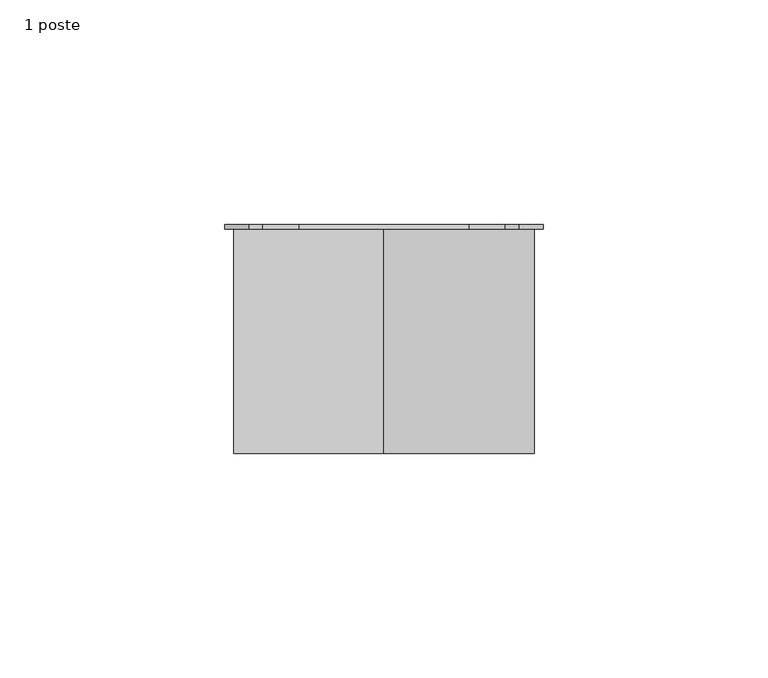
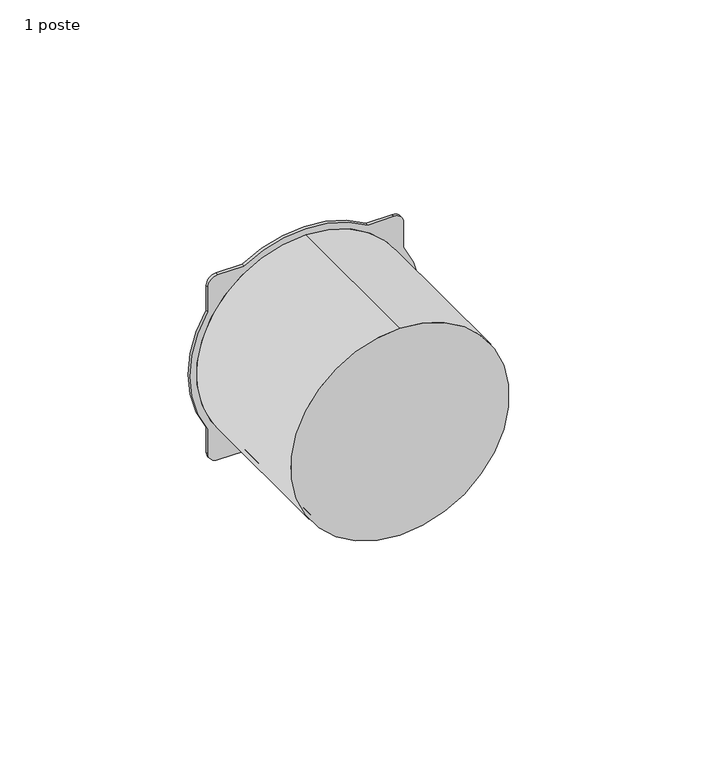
"""IFC4 building model written with IfcOpenShell, lengths in millimetres: proxy geometry, Legrand Boite encastrement batibox 1 poste1 : 1 poste."""

from ifc_helpers import new_model, si_unit, frame, origin, place, context, project, spatial, polyline, circle_curve, source, transform, mapped, element, save
from ifc_brep_helpers import plane_surface, cylinder_surface, revolved_surface, advanced_brep


def proxy_1_poste_16ea5c28(model_context):
    return source(origin(), model_context, "Body", "AdvancedBrep", [
        advanced_brep(
        [(143.9802529, 100.5, 280.0), (106.0197471, 100.5, 280.0), (98.0, 100.5, 280.0), (95.0, 100.5, 277.0), (95.0, 100.5, 268.9802529), (95.0, 100.5, 231.0197471), (95.0, 100.5, 223.0), (98.0, 100.5, 220.0), (106.0197471, 100.5, 220.0), (143.9802529, 100.5, 220.0), (152.0, 100.5, 220.0), (155.0, 100.5, 223.0), (155.0, 100.5, 231.0197471), (155.0, 100.5, 268.9802529), (155.0, 100.5, 277.0), (152.0, 100.5, 280.0), (125.0, 100.5, 283.5), (125.0, 100.5, 216.5), (143.9802529, 101.5, 280.0), (152.0, 101.5, 280.0), (155.0, 101.5, 277.0), (155.0, 101.5, 268.9802529), (155.0, 101.5, 231.0197471), (155.0, 101.5, 223.0), (152.0, 101.5, 220.0), (143.9802529, 101.5, 220.0), (106.0197471, 101.5, 220.0), (98.0, 101.5, 220.0), (95.0, 101.5, 223.0), (95.0, 101.5, 231.0197471), (95.0, 101.5, 268.9802529), (95.0, 101.5, 277.0), (98.0, 101.5, 280.0), (106.0197471, 101.5, 280.0), (125.0, 101.5, 217.5), (125.0, 101.5, 282.5), (125.0, 100.5, 282.5), (125.0, 100.5, 217.5), (125.0, 50.5, 216.5), (125.0, 50.5, 283.5), (125.0, 52.5, 216.5), (125.0, 52.5, 283.5), (125.0, 52.5, 282.5), (125.0, 52.5, 217.5)],
        [
            (0, 1, circle_curve(frame((125.0, 100.5, 250.0), z_axis=(0.0, -1.0, 0.0), x_axis=(1.0, 0.0, 0.0)), 35.5)),
            (1, 2),
            (2, 3, circle_curve(frame((98.0, 100.5, 277.0), z_axis=(0.0, -1.0, 0.0), x_axis=(1.0, 0.0, 0.0)), 3.0)),
            (3, 4),
            (4, 5, circle_curve(frame((125.0, 100.5, 250.0), z_axis=(0.0, -1.0, 0.0), x_axis=(1.0, 0.0, 0.0)), 35.5)),
            (5, 6),
            (6, 7, circle_curve(frame((98.0, 100.5, 223.0), z_axis=(0.0, -1.0, 0.0), x_axis=(1.0, 0.0, 0.0)), 3.0)),
            (7, 8),
            (8, 9, circle_curve(frame((125.0, 100.5, 250.0), z_axis=(0.0, -1.0, 0.0), x_axis=(1.0, 0.0, 0.0)), 35.5)),
            (9, 10),
            (10, 11, circle_curve(frame((152.0, 100.5, 223.0), z_axis=(0.0, -1.0, 0.0), x_axis=(1.0, 0.0, 0.0)), 3.0)),
            (11, 12),
            (12, 13, circle_curve(frame((125.0, 100.5, 250.0), z_axis=(0.0, -1.0, 0.0), x_axis=(1.0, 0.0, 0.0)), 35.5)),
            (13, 14),
            (14, 15, circle_curve(frame((152.0, 100.5, 277.0), z_axis=(0.0, -1.0, 0.0), x_axis=(1.0, 0.0, 0.0)), 3.0)),
            (15, 0),
            (16, 17, circle_curve(frame((125.0, 100.5, 250.0), z_axis=(0.0, 1.0, 0.0), x_axis=(1.0, 0.0, 0.0)), 33.5)),
            (17, 16, circle_curve(frame((125.0, 100.5, 250.0), z_axis=(0.0, 1.0, 0.0), x_axis=(1.0, 0.0, 0.0)), 33.5)),
            (18, 19),
            (19, 20, circle_curve(frame((152.0, 101.5, 277.0), z_axis=(0.0, 1.0, 0.0), x_axis=(1.0, 0.0, 0.0)), 3.0)),
            (20, 21),
            (21, 22, circle_curve(frame((125.0, 101.5, 250.0), z_axis=(0.0, 1.0, 0.0), x_axis=(1.0, 0.0, 0.0)), 35.5)),
            (22, 23),
            (23, 24, circle_curve(frame((152.0, 101.5, 223.0), z_axis=(0.0, 1.0, 0.0), x_axis=(1.0, 0.0, 0.0)), 3.0)),
            (24, 25),
            (25, 26, circle_curve(frame((125.0, 101.5, 250.0), z_axis=(0.0, 1.0, 0.0), x_axis=(1.0, 0.0, 0.0)), 35.5)),
            (26, 27),
            (27, 28, circle_curve(frame((98.0, 101.5, 223.0), z_axis=(0.0, 1.0, 0.0), x_axis=(1.0, 0.0, 0.0)), 3.0)),
            (28, 29),
            (29, 30, circle_curve(frame((125.0, 101.5, 250.0), z_axis=(0.0, 1.0, 0.0), x_axis=(1.0, 0.0, 0.0)), 35.5)),
            (30, 31),
            (31, 32, circle_curve(frame((98.0, 101.5, 277.0), z_axis=(0.0, 1.0, 0.0), x_axis=(1.0, 0.0, 0.0)), 3.0)),
            (32, 33),
            (33, 18, circle_curve(frame((125.0, 101.5, 250.0), z_axis=(0.0, 1.0, 0.0), x_axis=(1.0, 0.0, 0.0)), 35.5)),
            (34, 35, circle_curve(frame((125.0, 101.5, 250.0), z_axis=(0.0, -1.0, 0.0), x_axis=(1.0, 0.0, 0.0)), 32.5)),
            (35, 34, circle_curve(frame((125.0, 101.5, 250.0), z_axis=(0.0, -1.0, 0.0), x_axis=(1.0, 0.0, 0.0)), 32.5)),
            (13, 21),
            (20, 14),
            (19, 15),
            (18, 0),
            (1, 33),
            (32, 2),
            (31, 3),
            (30, 4),
            (9, 25),
            (24, 10),
            (23, 11),
            (22, 12),
            (5, 29),
            (28, 6),
            (27, 7),
            (26, 8),
            (35, 36),
            (36, 37, circle_curve(frame((125.0, 100.5, 250.0), z_axis=(0.0, -1.0, 0.0), x_axis=(1.0, 0.0, 0.0)), 32.5)),
            (37, 34),
            (37, 36, circle_curve(frame((125.0, 100.5, 250.0), z_axis=(0.0, -1.0, 0.0), x_axis=(1.0, 0.0, 0.0)), 32.5)),
            (38, 39, circle_curve(frame((125.0, 50.5, 250.0), z_axis=(0.0, -1.0, 0.0), x_axis=(1.0, 0.0, 0.0)), 33.5)),
            (39, 38, circle_curve(frame((125.0, 50.5, 250.0), z_axis=(0.0, -1.0, 0.0), x_axis=(1.0, 0.0, 0.0)), 33.5)),
            (38, 40),
            (40, 17),
            (16, 41),
            (41, 39),
            (36, 42),
            (42, 43, circle_curve(frame((125.0, 52.5, 250.0), z_axis=(0.0, -1.0, 0.0), x_axis=(1.0, 0.0, 0.0)), 32.5)),
            (43, 37),
            (43, 42, circle_curve(frame((125.0, 52.5, 250.0), z_axis=(0.0, -1.0, 0.0), x_axis=(1.0, 0.0, 0.0)), 32.5)),
        ],
        [
            plane_surface(frame((160.5, 100.5, 250.0), z_axis=(0.0, -1.0, 0.0), x_axis=(0.0, 0.0, 1.0))),
            plane_surface(frame((160.5, 101.5, 250.0), z_axis=(0.0, 1.0, 0.0), x_axis=(0.0, 0.0, -1.0))),
            plane_surface(frame((155.0, 100.5, 268.9802529), z_axis=(1.0, 0.0, 0.0), x_axis=(0.0, 1.0, 0.0))),
            cylinder_surface(frame((152.0, 101.5, 277.0), z_axis=(0.0, -1.0, 0.0), x_axis=(1.0, 0.0, 0.0)), 3.0),
            plane_surface(frame((152.0, 100.5, 280.0), z_axis=(0.0, 0.0, 1.0), x_axis=(0.0, 1.0, 0.0))),
            plane_surface(frame((106.0197471, 100.5, 280.0), z_axis=(0.0, 0.0, 1.0), x_axis=(0.0, 1.0, 0.0))),
            cylinder_surface(frame((98.0, 101.5, 277.0), z_axis=(0.0, -1.0, 0.0), x_axis=(1.0, 0.0, 0.0)), 3.0),
            plane_surface(frame((95.0, 100.5, 277.0), z_axis=(-1.0, 0.0, 0.0), x_axis=(0.0, 1.0, 0.0))),
            plane_surface(frame((143.9802529, 100.5, 220.0), z_axis=(0.0, 0.0, -1.0), x_axis=(0.0, 1.0, 0.0))),
            cylinder_surface(frame((152.0, 101.5, 223.0), z_axis=(0.0, -1.0, 0.0), x_axis=(1.0, 0.0, 0.0)), 3.0),
            plane_surface(frame((155.0, 100.5, 223.0), z_axis=(1.0, 0.0, 0.0), x_axis=(0.0, 1.0, 0.0))),
            plane_surface(frame((95.0, 100.5, 231.0197471), z_axis=(-1.0, 0.0, 0.0), x_axis=(0.0, 1.0, 0.0))),
            cylinder_surface(frame((98.0, 101.5, 223.0), z_axis=(0.0, -1.0, 0.0), x_axis=(1.0, 0.0, 0.0)), 3.0),
            plane_surface(frame((98.0, 100.5, 220.0), z_axis=(0.0, 0.0, -1.0), x_axis=(0.0, 1.0, 0.0))),
            revolved_surface(polyline([(157.5, 101.5, 250.0), (157.5, 100.5, 250.0)]), (125.0, 100.5, 250.0), (0.0, 1.0, 0.0)),
            plane_surface(frame((158.5, 50.5, 250.0), z_axis=(0.0, -1.0, 0.0), x_axis=(0.0, 0.0, 1.0))),
            cylinder_surface(frame((125.0, 100.5, 250.0), z_axis=(0.0, -1.0, 0.0), x_axis=(1.0, 0.0, 0.0)), 33.5),
            revolved_surface(polyline([(157.5, 100.5, 250.0), (157.5, 52.5, 250.0)]), (125.0, 100.5, 250.0), (0.0, 1.0, 0.0)),
            plane_surface(frame((158.5, 52.5, 250.0), z_axis=(0.0, 1.0, 0.0), x_axis=(0.0, 0.0, -1.0))),
            cylinder_surface(frame((125.0, 101.5, 250.0), z_axis=(0.0, -1.0, 0.0), x_axis=(1.0, 0.0, 0.0)), 35.5),
        ],
        [
            (0, [[1, 2, 3, 4, 5, 6, 7, 8, 9, 10, 11, 12, 13, 14, 15, 16], [17, 18]]),
            (1, [[19, 20, 21, 22, 23, 24, 25, 26, 27, 28, 29, 30, 31, 32, 33, 34], [35, 36]]),
            (2, [[-14, 37, -21, 38]]),
            (3, [[-15, -38, -20, 39]]),
            (4, [[-16, -39, -19, 40]]),
            (5, [[-2, 41, -33, 42]]),
            (6, [[-3, -42, -32, 43]]),
            (7, [[-4, -43, -31, 44]]),
            (8, [[-10, 45, -25, 46]]),
            (9, [[-11, -46, -24, 47]]),
            (10, [[-12, -47, -23, 48]]),
            (11, [[-6, 49, -29, 50]]),
            (12, [[-7, -50, -28, 51]]),
            (13, [[-8, -51, -27, 52]]),
            (14, [[-36, 53, 54, 55]]),
            (14, [[-35, -55, 56, -53]]),
            (15, [[57, 58]]),
            (16, [[-57, 59, 60, -17, 61, 62]]),
            (16, [[-58, -62, -61, -18, -60, -59]]),
            (17, [[-54, 63, 64, 65]]),
            (17, [[-56, -65, 66, -63]]),
            (18, [[-64, -66]]),
            (19, [[-1, -40, -34, -41]]),
            (19, [[-5, -44, -30, -49]]),
            (19, [[-9, -52, -26, -45]]),
            (19, [[-13, -48, -22, -37]]),
        ],
    ),
    ])


if __name__ == "__main__":
    model = new_model("IFC4")
    model_context = context("Model", 3, world=origin())
    ifc_project = project(units=[si_unit("LENGTHUNIT", "METRE", prefix="MILLI")], contexts=[model_context])
    site = spatial("IfcSite", under=ifc_project)
    building = spatial("IfcBuilding", under=site)
    placement = place(None, origin())
    proxy_1_poste_shape = proxy_1_poste_16ea5c28(model_context)
    element("IfcBuildingElementProxy", 1, Name="Legrand Boite encastrement batibox 1 poste1 : 1 poste", ObjectType="Legrand Boite encastrement batibox 1 poste1 : 1 poste", at=placement, inside=building, context=model_context, shape_type="MappedRepresentation", body=[
        mapped(proxy_1_poste_shape, transform((0.0, 0.0, 0.0), x_axis=(1.0, 0.0, 0.0), y_axis=(0.0, 1.0, 0.0), z_axis=(0.0, 0.0, 1.0))),
    ])
    save(model, "model.ifc")
